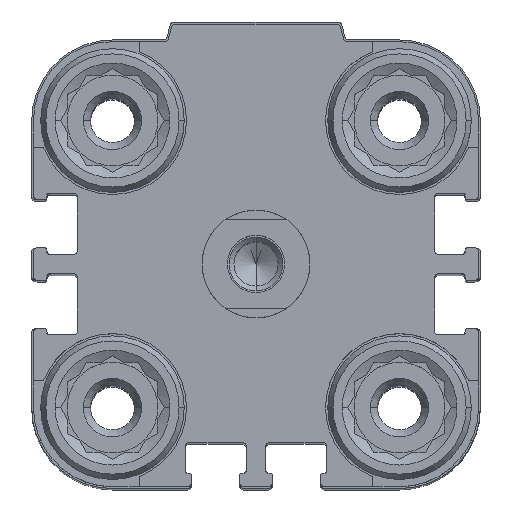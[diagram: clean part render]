
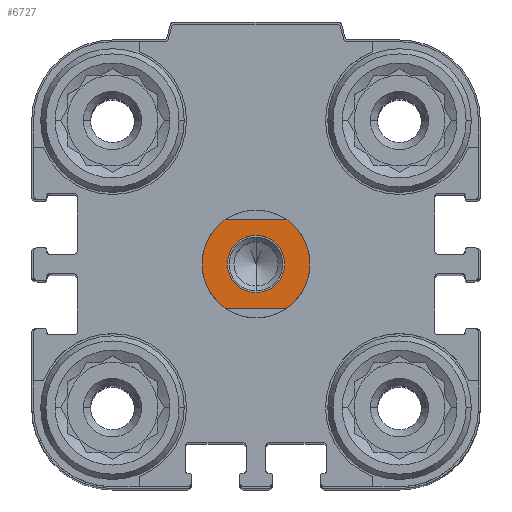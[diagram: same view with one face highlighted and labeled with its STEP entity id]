
A CAD part, top view. The second image highlights one B-rep face of the part: STEP entity #6727.
In plain terms, the highlighted planar face has unit normal (0, 0, 1).
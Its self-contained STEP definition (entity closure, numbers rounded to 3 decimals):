
#685 = DIRECTION ( 'NONE',  ( -1., 0., 0. ) ) ;
#839 = VERTEX_POINT ( 'NONE', #10416 ) ;
#964 = EDGE_CURVE ( 'NONE', #6624, #14104, #16505, .T. ) ;
#1098 = CARTESIAN_POINT ( 'NONE',  ( 10., -5., 6. ) ) ;
#2170 = CARTESIAN_POINT ( 'NONE',  ( -10., 5., 6. ) ) ;
#2360 = DIRECTION ( 'NONE',  ( 0., 1., 0. ) ) ;
#2798 = EDGE_LOOP ( 'NONE', ( #15907, #5270, #8498, #20724, #14918, #4959 ) ) ;
#3055 = ORIENTED_EDGE ( 'NONE', *, *, #3540, .T. ) ;
#3383 = EDGE_CURVE ( 'NONE', #4941, #16111, #11276, .T. ) ;
#3540 = EDGE_CURVE ( 'NONE', #15049, #839, #14143, .T. ) ;
#3676 = AXIS2_PLACEMENT_3D ( 'NONE', #5898, #9329, #5552 ) ;
#3739 = DIRECTION ( 'NONE',  ( 0., 0., -1. ) ) ;
#4107 = CARTESIAN_POINT ( 'NONE',  ( 0., 0., 6. ) ) ;
#4635 = DIRECTION ( 'NONE',  ( -1., 0., 0. ) ) ;
#4837 = PLANE ( 'NONE',  #9499 ) ;
#4941 = VERTEX_POINT ( 'NONE', #5782 ) ;
#4959 = ORIENTED_EDGE ( 'NONE', *, *, #3383, .F. ) ;
#5270 = ORIENTED_EDGE ( 'NONE', *, *, #5653, .F. ) ;
#5552 = DIRECTION ( 'NONE',  ( -1., 0., 0. ) ) ;
#5653 = EDGE_CURVE ( 'NONE', #14104, #14338, #8432, .T. ) ;
#5782 = CARTESIAN_POINT ( 'NONE',  ( 3.317, 5., 6. ) ) ;
#5872 = AXIS2_PLACEMENT_3D ( 'NONE', #4107, #9147, #685 ) ;
#5898 = CARTESIAN_POINT ( 'NONE',  ( 0., 0., 6. ) ) ;
#6082 = EDGE_CURVE ( 'NONE', #16111, #11221, #7716, .T. ) ;
#6624 = VERTEX_POINT ( 'NONE', #16834 ) ;
#6672 = FACE_OUTER_BOUND ( 'NONE', #2798, .T. ) ;
#6727 = ADVANCED_FACE ( 'NONE', ( #6672, #18001 ), #4837, .F. ) ;
#7413 = CIRCLE ( 'NONE', #8499, 3.2 ) ;
#7716 = CIRCLE ( 'NONE', #3676, 6. ) ;
#8187 = LINE ( 'NONE', #1098, #22515 ) ;
#8432 = CIRCLE ( 'NONE', #21183, 6. ) ;
#8462 = EDGE_CURVE ( 'NONE', #14338, #4941, #18033, .T. ) ;
#8498 = ORIENTED_EDGE ( 'NONE', *, *, #964, .F. ) ;
#8499 = AXIS2_PLACEMENT_3D ( 'NONE', #16267, #14557, #21518 ) ;
#8505 = CARTESIAN_POINT ( 'NONE',  ( 0., 0., 6. ) ) ;
#8726 = DIRECTION ( 'NONE',  ( 1., 0., 0. ) ) ;
#8788 = CARTESIAN_POINT ( 'NONE',  ( 0., 0., 6. ) ) ;
#8878 = CARTESIAN_POINT ( 'NONE',  ( -6., 0., 6. ) ) ;
#9147 = DIRECTION ( 'NONE',  ( 0., 0., -1. ) ) ;
#9329 = DIRECTION ( 'NONE',  ( 0., 0., -1. ) ) ;
#9362 = CARTESIAN_POINT ( 'NONE',  ( 0., 3.2, 6. ) ) ;
#9472 = DIRECTION ( 'NONE',  ( -1., 0., 0. ) ) ;
#9499 = AXIS2_PLACEMENT_3D ( 'NONE', #18125, #14704, #2360 ) ;
#10372 = EDGE_CURVE ( 'NONE', #839, #15049, #7413, .T. ) ;
#10416 = CARTESIAN_POINT ( 'NONE',  ( 0., -3.2, 6. ) ) ;
#11030 = VECTOR ( 'NONE', #8726, 1000. ) ;
#11070 = CARTESIAN_POINT ( 'NONE',  ( 3.317, -5., 6. ) ) ;
#11221 = VERTEX_POINT ( 'NONE', #11070 ) ;
#11276 = CIRCLE ( 'NONE', #21115, 6. ) ;
#11632 = EDGE_LOOP ( 'NONE', ( #3055, #17762 ) ) ;
#11936 = DIRECTION ( 'NONE',  ( 0., 1., 0. ) ) ;
#13747 = CARTESIAN_POINT ( 'NONE',  ( 6., 0., 6. ) ) ;
#13761 = DIRECTION ( 'NONE',  ( 0., 0., -1. ) ) ;
#14042 = DIRECTION ( 'NONE',  ( -1., 0., 0. ) ) ;
#14104 = VERTEX_POINT ( 'NONE', #8878 ) ;
#14143 = CIRCLE ( 'NONE', #22548, 3.2 ) ;
#14272 = CARTESIAN_POINT ( 'NONE',  ( 0., 0., 6. ) ) ;
#14338 = VERTEX_POINT ( 'NONE', #16637 ) ;
#14557 = DIRECTION ( 'NONE',  ( 0., 0., -1. ) ) ;
#14704 = DIRECTION ( 'NONE',  ( 0., 0., -1. ) ) ;
#14918 = ORIENTED_EDGE ( 'NONE', *, *, #6082, .F. ) ;
#15049 = VERTEX_POINT ( 'NONE', #9362 ) ;
#15674 = EDGE_CURVE ( 'NONE', #11221, #6624, #8187, .T. ) ;
#15749 = DIRECTION ( 'NONE',  ( 0., 0., -1. ) ) ;
#15907 = ORIENTED_EDGE ( 'NONE', *, *, #8462, .F. ) ;
#16111 = VERTEX_POINT ( 'NONE', #13747 ) ;
#16267 = CARTESIAN_POINT ( 'NONE',  ( 0., 0., 6. ) ) ;
#16505 = CIRCLE ( 'NONE', #5872, 6. ) ;
#16637 = CARTESIAN_POINT ( 'NONE',  ( -3.317, 5., 6. ) ) ;
#16834 = CARTESIAN_POINT ( 'NONE',  ( -3.317, -5., 6. ) ) ;
#17762 = ORIENTED_EDGE ( 'NONE', *, *, #10372, .T. ) ;
#18001 = FACE_BOUND ( 'NONE', #11632, .T. ) ;
#18033 = LINE ( 'NONE', #2170, #11030 ) ;
#18125 = CARTESIAN_POINT ( 'NONE',  ( 0., 0., 6. ) ) ;
#20724 = ORIENTED_EDGE ( 'NONE', *, *, #15674, .F. ) ;
#21115 = AXIS2_PLACEMENT_3D ( 'NONE', #8788, #15749, #14042 ) ;
#21183 = AXIS2_PLACEMENT_3D ( 'NONE', #14272, #3739, #9472 ) ;
#21518 = DIRECTION ( 'NONE',  ( 0., 1., 0. ) ) ;
#22515 = VECTOR ( 'NONE', #4635, 1000. ) ;
#22548 = AXIS2_PLACEMENT_3D ( 'NONE', #8505, #13761, #11936 ) ;
